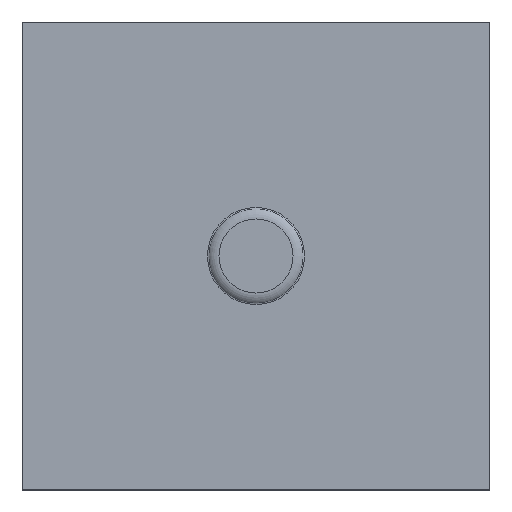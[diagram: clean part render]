
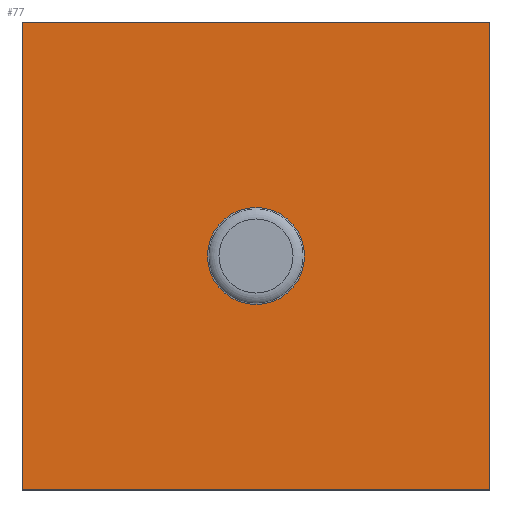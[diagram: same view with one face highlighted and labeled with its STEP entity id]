
A CAD part, top view. The second image highlights one B-rep face of the part: STEP entity #77.
In plain terms, the highlighted planar face has unit normal (0, 0, 1).
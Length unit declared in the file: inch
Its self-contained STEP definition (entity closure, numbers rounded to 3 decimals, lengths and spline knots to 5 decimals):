
#77=ADVANCED_FACE('',(#92,#93),#94,.F.);
#92=FACE_BOUND('',#122,.T.);
#93=FACE_OUTER_BOUND('',#123,.T.);
#94=PLANE('',#124);
#122=EDGE_LOOP('',(#162));
#123=EDGE_LOOP('',(#163,#164,#165,#166));
#124=AXIS2_PLACEMENT_3D('',#167,#168,#169);
#162=ORIENTED_EDGE('',*,*,#231,.T.);
#163=ORIENTED_EDGE('',*,*,#225,.T.);
#164=ORIENTED_EDGE('',*,*,#232,.T.);
#165=ORIENTED_EDGE('',*,*,#233,.T.);
#166=ORIENTED_EDGE('',*,*,#228,.T.);
#167=CARTESIAN_POINT('',(3.038,2.413,0.05));
#168=DIRECTION('',(-0.0,0.,-1.0));
#169=DIRECTION('',(-1.0,0.0,0.0));
#225=EDGE_CURVE('',#247,#244,#248,.T.);
#228=EDGE_CURVE('',#252,#247,#253,.T.);
#231=EDGE_CURVE('',#257,#257,#258,.T.);
#232=EDGE_CURVE('',#244,#259,#260,.T.);
#233=EDGE_CURVE('',#259,#252,#261,.T.);
#244=VERTEX_POINT('',#280);
#247=VERTEX_POINT('',#284);
#248=LINE('',#285,#286);
#252=VERTEX_POINT('',#292);
#253=LINE('',#293,#294);
#257=VERTEX_POINT('',#300);
#258=CIRCLE('',#301,0.20735);
#259=VERTEX_POINT('',#302);
#260=LINE('',#303,#304);
#261=LINE('',#305,#306);
#280=CARTESIAN_POINT('',(4.14,-0.25,0.05));
#284=CARTESIAN_POINT('',(2.14,-0.25,0.05));
#285=CARTESIAN_POINT('',(8916.33217,-0.25,0.05));
#286=VECTOR('',#329,1.0);
#292=CARTESIAN_POINT('',(2.14,1.75,0.05));
#293=CARTESIAN_POINT('',(2.14,12904.57007,0.05));
#294=VECTOR('',#332,1.0);
#300=CARTESIAN_POINT('',(3.34735,0.75,0.05));
#301=AXIS2_PLACEMENT_3D('',#335,#336,#337);
#302=CARTESIAN_POINT('',(4.14,1.75,0.05));
#303=CARTESIAN_POINT('',(4.14,5352.50369,0.05));
#304=VECTOR('',#338,1.0);
#305=CARTESIAN_POINT('',(16619.34447,1.75,0.05));
#306=VECTOR('',#339,1.0);
#329=DIRECTION('',(1.0,0.0,0.0));
#332=DIRECTION('',(0.0,-1.0,0.));
#335=CARTESIAN_POINT('',(3.14,0.75,0.05));
#336=DIRECTION('',(0.0,0.,-1.0));
#337=DIRECTION('',(1.0,0.,0.));
#338=DIRECTION('',(0.0,1.0,0.));
#339=DIRECTION('',(-1.0,-0.0,0.0));
